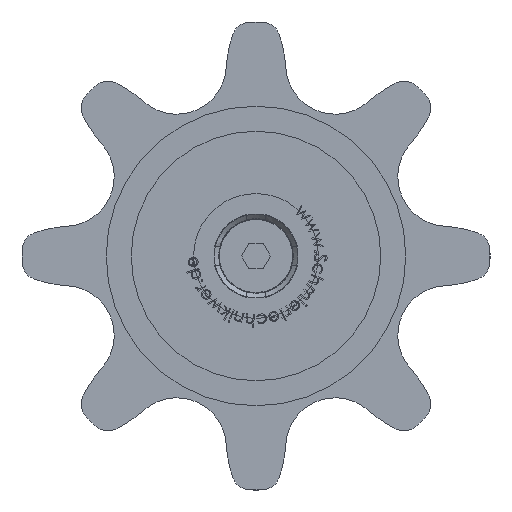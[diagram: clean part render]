
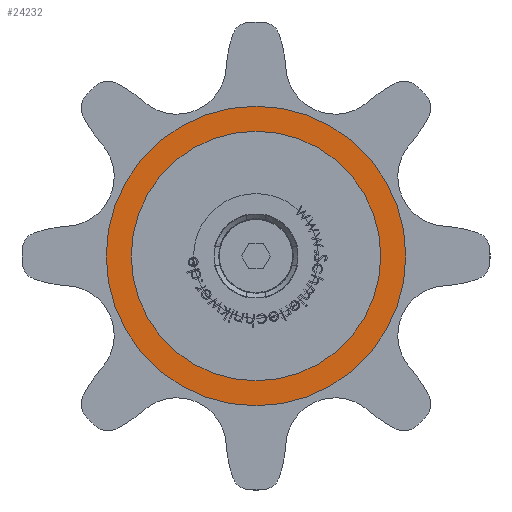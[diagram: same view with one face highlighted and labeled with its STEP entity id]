
A CAD part, front view. The second image highlights one B-rep face of the part: STEP entity #24232.
In plain terms, the highlighted planar face has unit normal (0, -1, 0).
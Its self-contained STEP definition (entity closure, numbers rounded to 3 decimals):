
#525 = EDGE_LOOP ( 'NONE', ( #18187 ) ) ;
#588 = AXIS2_PLACEMENT_3D ( 'NONE', #7549, #4735, #19356 ) ;
#4735 = DIRECTION ( 'NONE',  ( 0., 1., 0. ) ) ;
#6676 = VERTEX_POINT ( 'NONE', #16235 ) ;
#7549 = CARTESIAN_POINT ( 'NONE',  ( 0., -80.7, 0. ) ) ;
#8522 = EDGE_CURVE ( 'NONE', #6676, #6676, #30760, .T. ) ;
#13708 = CIRCLE ( 'NONE', #17646, 12. ) ;
#15898 = CARTESIAN_POINT ( 'NONE',  ( 0., -80.7, -12. ) ) ;
#16043 = VERTEX_POINT ( 'NONE', #15898 ) ;
#16235 = CARTESIAN_POINT ( 'NONE',  ( 0., -80.7, -24. ) ) ;
#16633 = PLANE ( 'NONE',  #29763 ) ;
#17646 = AXIS2_PLACEMENT_3D ( 'NONE', #17764, #29606, #27406 ) ;
#17764 = CARTESIAN_POINT ( 'NONE',  ( 0., -80.7, 0. ) ) ;
#18187 = ORIENTED_EDGE ( 'NONE', *, *, #23889, .F. ) ;
#19356 = DIRECTION ( 'NONE',  ( 0., 0., -1. ) ) ;
#21397 = CARTESIAN_POINT ( 'NONE',  ( 0., -80.7, 0. ) ) ;
#22286 = FACE_BOUND ( 'NONE', #525, .T. ) ;
#23889 = EDGE_CURVE ( 'NONE', #16043, #16043, #13708, .T. ) ;
#24232 = ADVANCED_FACE ( 'NONE', ( #26853, #22286 ), #16633, .F. ) ;
#25682 = ORIENTED_EDGE ( 'NONE', *, *, #8522, .F. ) ;
#26853 = FACE_OUTER_BOUND ( 'NONE', #31152, .T. ) ;
#27012 = DIRECTION ( 'NONE',  ( 0., 1., 0. ) ) ;
#27406 = DIRECTION ( 'NONE',  ( 0., 0., -1. ) ) ;
#29606 = DIRECTION ( 'NONE',  ( 0., -1., 0. ) ) ;
#29763 = AXIS2_PLACEMENT_3D ( 'NONE', #21397, #27012, #31010 ) ;
#30760 = CIRCLE ( 'NONE', #588, 24. ) ;
#31010 = DIRECTION ( 'NONE',  ( 0., 0., 1. ) ) ;
#31152 = EDGE_LOOP ( 'NONE', ( #25682 ) ) ;
